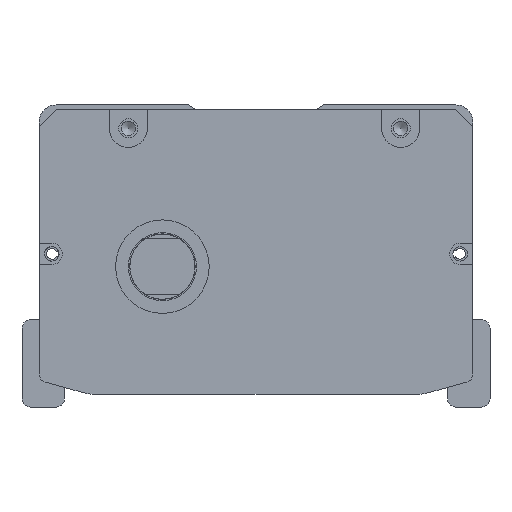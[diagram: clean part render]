
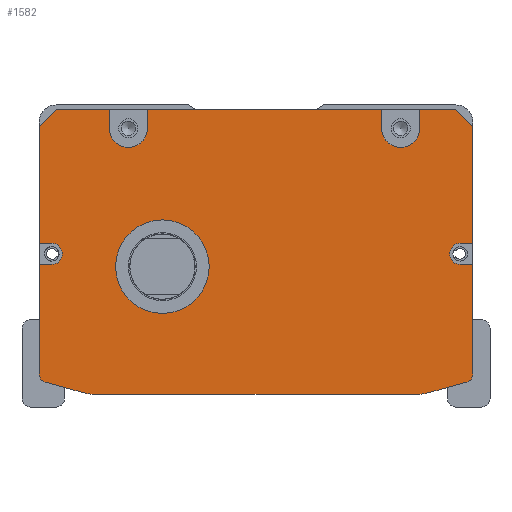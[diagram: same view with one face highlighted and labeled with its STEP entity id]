
A CAD part, front view. The second image highlights one B-rep face of the part: STEP entity #1582.
In plain terms, the highlighted planar face has unit normal (0, -1, 0).
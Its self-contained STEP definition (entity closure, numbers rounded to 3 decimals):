
#958=FACE_BOUND('',#3010,.T.);
#959=FACE_BOUND('',#3011,.T.);
#1582=ADVANCED_FACE('',(#958,#959),#2173,.F.);
#2173=PLANE('',#11715);
#3010=EDGE_LOOP('',(#5327,#5328,#5329,#5330,#5331,#5332,#5333,#5334,#5335,
#5336,#5337,#5338,#5339,#5340,#5341,#5342,#5343,#5344,#5345,#5346,#5347,
#5348,#5349,#5350,#5351,#5352,#5353,#5354));
#3011=EDGE_LOOP('',(#5355));
#3941=CIRCLE('',#11706,4.5);
#3942=CIRCLE('',#11707,4.5);
#3943=CIRCLE('',#11708,2.5);
#3944=CIRCLE('',#11709,2.);
#3945=CIRCLE('',#11710,10.);
#3946=CIRCLE('',#11711,10.);
#3947=CIRCLE('',#11712,2.);
#3948=CIRCLE('',#11713,2.5);
#3949=CIRCLE('',#11714,11.);
#5327=ORIENTED_EDGE('',*,*,#8620,.T.);
#5328=ORIENTED_EDGE('',*,*,#9034,.T.);
#5329=ORIENTED_EDGE('',*,*,#9035,.T.);
#5330=ORIENTED_EDGE('',*,*,#9036,.F.);
#5331=ORIENTED_EDGE('',*,*,#9037,.T.);
#5332=ORIENTED_EDGE('',*,*,#9038,.F.);
#5333=ORIENTED_EDGE('',*,*,#9039,.T.);
#5334=ORIENTED_EDGE('',*,*,#9040,.F.);
#5335=ORIENTED_EDGE('',*,*,#9041,.T.);
#5336=ORIENTED_EDGE('',*,*,#9042,.F.);
#5337=ORIENTED_EDGE('',*,*,#9043,.T.);
#5338=ORIENTED_EDGE('',*,*,#9044,.T.);
#5339=ORIENTED_EDGE('',*,*,#8652,.T.);
#5340=ORIENTED_EDGE('',*,*,#9045,.T.);
#5341=ORIENTED_EDGE('',*,*,#9046,.T.);
#5342=ORIENTED_EDGE('',*,*,#9047,.T.);
#5343=ORIENTED_EDGE('',*,*,#8648,.T.);
#5344=ORIENTED_EDGE('',*,*,#9048,.T.);
#5345=ORIENTED_EDGE('',*,*,#9049,.T.);
#5346=ORIENTED_EDGE('',*,*,#9050,.T.);
#5347=ORIENTED_EDGE('',*,*,#9051,.T.);
#5348=ORIENTED_EDGE('',*,*,#9052,.T.);
#5349=ORIENTED_EDGE('',*,*,#9053,.T.);
#5350=ORIENTED_EDGE('',*,*,#9054,.T.);
#5351=ORIENTED_EDGE('',*,*,#8624,.T.);
#5352=ORIENTED_EDGE('',*,*,#9055,.T.);
#5353=ORIENTED_EDGE('',*,*,#9056,.T.);
#5354=ORIENTED_EDGE('',*,*,#9057,.T.);
#5355=ORIENTED_EDGE('',*,*,#9058,.T.);
#7510=VERTEX_POINT('',#16116);
#7511=VERTEX_POINT('',#16118);
#7514=VERTEX_POINT('',#16124);
#7515=VERTEX_POINT('',#16126);
#7536=VERTEX_POINT('',#16171);
#7537=VERTEX_POINT('',#16173);
#7540=VERTEX_POINT('',#16179);
#7541=VERTEX_POINT('',#16181);
#7802=VERTEX_POINT('',#16970);
#7803=VERTEX_POINT('',#16972);
#7804=VERTEX_POINT('',#16974);
#7805=VERTEX_POINT('',#16976);
#7806=VERTEX_POINT('',#16978);
#7807=VERTEX_POINT('',#16980);
#7808=VERTEX_POINT('',#16982);
#7809=VERTEX_POINT('',#16984);
#7810=VERTEX_POINT('',#16986);
#7811=VERTEX_POINT('',#16988);
#7812=VERTEX_POINT('',#16991);
#7813=VERTEX_POINT('',#16993);
#7814=VERTEX_POINT('',#16996);
#7815=VERTEX_POINT('',#16998);
#7816=VERTEX_POINT('',#17000);
#7817=VERTEX_POINT('',#17002);
#7818=VERTEX_POINT('',#17004);
#7819=VERTEX_POINT('',#17006);
#7820=VERTEX_POINT('',#17009);
#7821=VERTEX_POINT('',#17011);
#7822=VERTEX_POINT('',#17014);
#8620=EDGE_CURVE('',#7511,#7510,#10055,.T.);
#8624=EDGE_CURVE('',#7515,#7514,#10059,.T.);
#8648=EDGE_CURVE('',#7537,#7536,#10083,.T.);
#8652=EDGE_CURVE('',#7541,#7540,#10087,.T.);
#9034=EDGE_CURVE('',#7510,#7802,#10320,.T.);
#9035=EDGE_CURVE('',#7802,#7803,#10321,.T.);
#9036=EDGE_CURVE('',#7804,#7803,#10322,.T.);
#9037=EDGE_CURVE('',#7804,#7805,#3941,.T.);
#9038=EDGE_CURVE('',#7806,#7805,#10323,.T.);
#9039=EDGE_CURVE('',#7806,#7807,#10324,.T.);
#9040=EDGE_CURVE('',#7808,#7807,#10325,.T.);
#9041=EDGE_CURVE('',#7808,#7809,#3942,.T.);
#9042=EDGE_CURVE('',#7810,#7809,#10326,.T.);
#9043=EDGE_CURVE('',#7810,#7811,#10327,.T.);
#9044=EDGE_CURVE('',#7811,#7541,#10328,.T.);
#9045=EDGE_CURVE('',#7540,#7812,#10329,.T.);
#9046=EDGE_CURVE('',#7812,#7813,#3943,.T.);
#9047=EDGE_CURVE('',#7813,#7537,#10330,.T.);
#9048=EDGE_CURVE('',#7536,#7814,#3944,.T.);
#9049=EDGE_CURVE('',#7814,#7815,#10331,.T.);
#9050=EDGE_CURVE('',#7815,#7816,#3945,.T.);
#9051=EDGE_CURVE('',#7816,#7817,#10332,.T.);
#9052=EDGE_CURVE('',#7817,#7818,#3946,.T.);
#9053=EDGE_CURVE('',#7818,#7819,#10333,.T.);
#9054=EDGE_CURVE('',#7819,#7515,#3947,.T.);
#9055=EDGE_CURVE('',#7514,#7820,#10334,.T.);
#9056=EDGE_CURVE('',#7820,#7821,#3948,.T.);
#9057=EDGE_CURVE('',#7821,#7511,#10335,.T.);
#9058=EDGE_CURVE('',#7822,#7822,#3949,.T.);
#10055=LINE('',#16117,#10708);
#10059=LINE('',#16125,#10712);
#10083=LINE('',#16172,#10736);
#10087=LINE('',#16180,#10740);
#10320=LINE('',#16969,#10973);
#10321=LINE('',#16971,#10974);
#10322=LINE('',#16973,#10975);
#10323=LINE('',#16977,#10976);
#10324=LINE('',#16979,#10977);
#10325=LINE('',#16981,#10978);
#10326=LINE('',#16985,#10979);
#10327=LINE('',#16987,#10980);
#10328=LINE('',#16989,#10981);
#10329=LINE('',#16990,#10982);
#10330=LINE('',#16994,#10983);
#10331=LINE('',#16997,#10984);
#10332=LINE('',#17001,#10985);
#10333=LINE('',#17005,#10986);
#10334=LINE('',#17008,#10987);
#10335=LINE('',#17012,#10988);
#10708=VECTOR('',#12870,1.);
#10712=VECTOR('',#12874,1.);
#10736=VECTOR('',#12900,1.);
#10740=VECTOR('',#12904,1.);
#10973=VECTOR('',#13727,1.);
#10974=VECTOR('',#13728,1.);
#10975=VECTOR('',#13729,1.);
#10976=VECTOR('',#13732,1.);
#10977=VECTOR('',#13733,1.);
#10978=VECTOR('',#13734,1.);
#10979=VECTOR('',#13737,1.);
#10980=VECTOR('',#13738,1.);
#10981=VECTOR('',#13739,1.);
#10982=VECTOR('',#13740,1.);
#10983=VECTOR('',#13743,1.);
#10984=VECTOR('',#13746,1.);
#10985=VECTOR('',#13749,1.);
#10986=VECTOR('',#13752,1.);
#10987=VECTOR('',#13755,1.);
#10988=VECTOR('',#13758,1.);
#11706=AXIS2_PLACEMENT_3D('',#16975,#13730,#13731);
#11707=AXIS2_PLACEMENT_3D('',#16983,#13735,#13736);
#11708=AXIS2_PLACEMENT_3D('',#16992,#13741,#13742);
#11709=AXIS2_PLACEMENT_3D('',#16995,#13744,#13745);
#11710=AXIS2_PLACEMENT_3D('',#16999,#13747,#13748);
#11711=AXIS2_PLACEMENT_3D('',#17003,#13750,#13751);
#11712=AXIS2_PLACEMENT_3D('',#17007,#13753,#13754);
#11713=AXIS2_PLACEMENT_3D('',#17010,#13756,#13757);
#11714=AXIS2_PLACEMENT_3D('',#17013,#13759,#13760);
#11715=AXIS2_PLACEMENT_3D('',#17015,#13761,#13762);
#12870=DIRECTION('',(0.,0.,1.));
#12874=DIRECTION('',(0.,0.,1.));
#12900=DIRECTION('',(0.,0.,-1.));
#12904=DIRECTION('',(0.,0.,-1.));
#13727=DIRECTION('',(-0.707,0.,0.707));
#13728=DIRECTION('',(-1.,0.,0.));
#13729=DIRECTION('',(0.,0.,1.));
#13730=DIRECTION('',(0.,1.,0.));
#13731=DIRECTION('',(0.,0.,1.));
#13732=DIRECTION('',(0.,0.,-1.));
#13733=DIRECTION('',(-1.,0.,0.));
#13734=DIRECTION('',(0.,0.,1.));
#13735=DIRECTION('',(0.,1.,0.));
#13736=DIRECTION('',(0.,0.,1.));
#13737=DIRECTION('',(0.,0.,-1.));
#13738=DIRECTION('',(-1.,0.,0.));
#13739=DIRECTION('',(-0.707,0.,-0.707));
#13740=DIRECTION('',(1.,0.,0.));
#13741=DIRECTION('',(0.,1.,0.));
#13742=DIRECTION('',(0.,0.,1.));
#13743=DIRECTION('',(-1.,0.,0.));
#13744=DIRECTION('',(0.,-1.,0.));
#13745=DIRECTION('',(0.,0.,1.));
#13746=DIRECTION('',(0.963,0.,-0.269));
#13747=DIRECTION('',(0.,-1.,0.));
#13748=DIRECTION('',(0.,0.,1.));
#13749=DIRECTION('',(1.,0.,0.));
#13750=DIRECTION('',(0.,-1.,0.));
#13751=DIRECTION('',(0.,0.,-1.));
#13752=DIRECTION('',(0.963,0.,0.269));
#13753=DIRECTION('',(0.,-1.,0.));
#13754=DIRECTION('',(0.,0.,-1.));
#13755=DIRECTION('',(-1.,0.,0.));
#13756=DIRECTION('',(0.,1.,0.));
#13757=DIRECTION('',(0.,0.,1.));
#13758=DIRECTION('',(1.,0.,0.));
#13759=DIRECTION('',(0.,1.,0.));
#13760=DIRECTION('',(0.,0.,1.));
#13761=DIRECTION('',(0.,1.,0.));
#13762=DIRECTION('',(1.,0.,0.));
#16116=CARTESIAN_POINT('',(47.808,-207.5,-5.));
#16117=CARTESIAN_POINT('',(47.808,-207.5,-1.));
#16118=CARTESIAN_POINT('',(47.808,-207.5,-32.5));
#16124=CARTESIAN_POINT('',(47.808,-207.5,-37.5));
#16125=CARTESIAN_POINT('',(47.808,-207.5,-1.));
#16126=CARTESIAN_POINT('',(47.808,-207.5,-63.212));
#16171=CARTESIAN_POINT('',(-54.192,-207.5,-63.212));
#16172=CARTESIAN_POINT('',(-54.192,-207.5,-62.));
#16173=CARTESIAN_POINT('',(-54.192,-207.5,-37.5));
#16179=CARTESIAN_POINT('',(-54.192,-207.5,-32.5));
#16180=CARTESIAN_POINT('',(-54.192,-207.5,-62.));
#16181=CARTESIAN_POINT('',(-54.192,-207.5,-5.));
#16969=CARTESIAN_POINT('',(43.808,-207.5,-1.));
#16970=CARTESIAN_POINT('',(43.808,-207.5,-1.));
#16971=CARTESIAN_POINT('',(-3.192,-207.5,-1.));
#16972=CARTESIAN_POINT('',(35.308,-207.5,-1.));
#16973=CARTESIAN_POINT('',(35.308,-207.5,-1.));
#16974=CARTESIAN_POINT('',(35.308,-207.5,-5.5));
#16975=CARTESIAN_POINT('',(30.808,-207.5,-5.5));
#16976=CARTESIAN_POINT('',(26.308,-207.5,-5.5));
#16977=CARTESIAN_POINT('',(26.308,-207.5,-1.));
#16978=CARTESIAN_POINT('',(26.308,-207.5,-1.));
#16979=CARTESIAN_POINT('',(-54.192,-207.5,-1.));
#16980=CARTESIAN_POINT('',(-28.692,-207.5,-1.));
#16981=CARTESIAN_POINT('',(-28.692,-207.5,-3.5));
#16982=CARTESIAN_POINT('',(-28.692,-207.5,-5.5));
#16983=CARTESIAN_POINT('',(-33.192,-207.5,-5.5));
#16984=CARTESIAN_POINT('',(-37.692,-207.5,-5.5));
#16985=CARTESIAN_POINT('',(-37.692,-207.5,-1.));
#16986=CARTESIAN_POINT('',(-37.692,-207.5,-1.));
#16987=CARTESIAN_POINT('',(-54.192,-207.5,-1.));
#16988=CARTESIAN_POINT('',(-50.192,-207.5,-1.));
#16989=CARTESIAN_POINT('',(-54.192,-207.5,-5.));
#16990=CARTESIAN_POINT('',(-3.192,-207.5,-32.5));
#16991=CARTESIAN_POINT('',(-51.192,-207.5,-32.5));
#16992=CARTESIAN_POINT('',(-51.192,-207.5,-35.));
#16993=CARTESIAN_POINT('',(-51.192,-207.5,-37.5));
#16994=CARTESIAN_POINT('',(-3.192,-207.5,-37.5));
#16995=CARTESIAN_POINT('',(-52.192,-207.5,-63.212));
#16996=CARTESIAN_POINT('',(-52.731,-207.5,-65.138));
#16997=CARTESIAN_POINT('',(-55.807,-207.5,-64.279));
#16998=CARTESIAN_POINT('',(-43.809,-207.5,-67.631));
#16999=CARTESIAN_POINT('',(-41.118,-207.5,-58.));
#17000=CARTESIAN_POINT('',(-41.118,-207.5,-68.));
#17001=CARTESIAN_POINT('',(-54.692,-207.5,-68.));
#17002=CARTESIAN_POINT('',(34.733,-207.5,-68.));
#17003=CARTESIAN_POINT('',(34.733,-207.5,-58.));
#17004=CARTESIAN_POINT('',(37.424,-207.5,-67.631));
#17005=CARTESIAN_POINT('',(49.422,-207.5,-64.279));
#17006=CARTESIAN_POINT('',(46.346,-207.5,-65.138));
#17007=CARTESIAN_POINT('',(45.808,-207.5,-63.212));
#17008=CARTESIAN_POINT('',(-3.192,-207.5,-37.5));
#17009=CARTESIAN_POINT('',(44.808,-207.5,-37.5));
#17010=CARTESIAN_POINT('',(44.808,-207.5,-35.));
#17011=CARTESIAN_POINT('',(44.808,-207.5,-32.5));
#17012=CARTESIAN_POINT('',(-3.192,-207.5,-32.5));
#17013=CARTESIAN_POINT('',(-25.192,-207.5,-38.));
#17014=CARTESIAN_POINT('',(-25.192,-207.5,-27.));
#17015=CARTESIAN_POINT('',(-3.192,-207.5,-1.));
